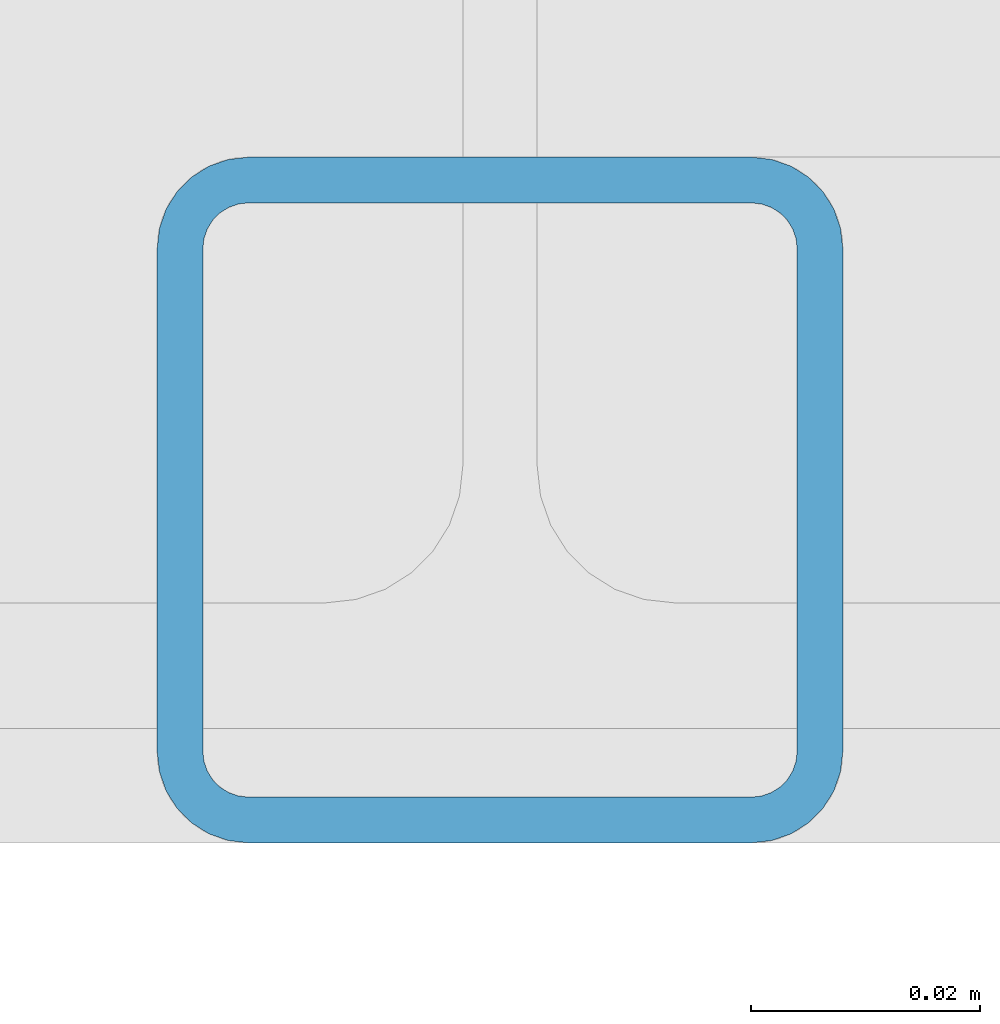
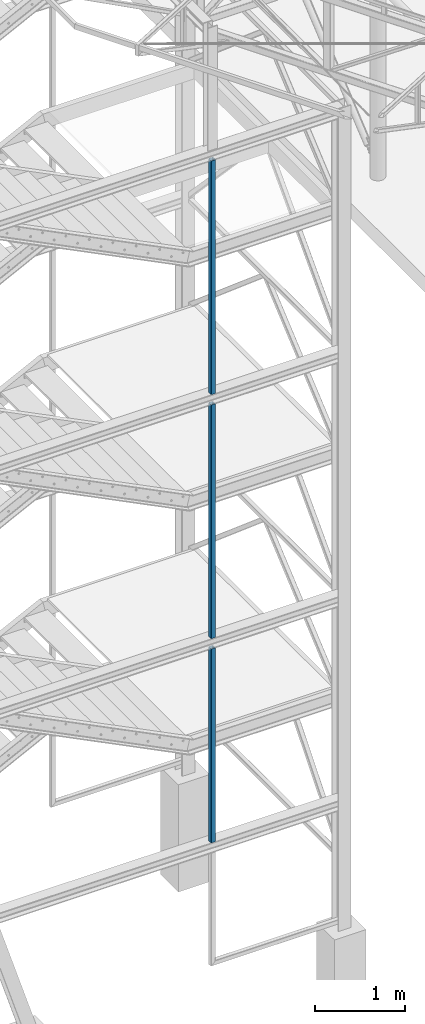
# One storey, part 6 of 132: 3 beams, 3 elements without a shape of their own.
"""IFC2X3 building model written with IfcOpenShell, lengths in millimetres."""

from ifc_helpers import new_model, si_unit, frame, origin_with_axes, origin_2d_with_axis, place, context, subcontext, project, spatial, hollow_rectangle, extrude, material, type_object, element, aggregate, save


model = new_model("IFC2X3")

# Units and contexts
model_context = context("Model", 3, precision=1e-05, world=origin_with_axes())
body_context = subcontext(model_context, "Body", "Model", "MODEL_VIEW")
ifc_project = project(units=[si_unit("LENGTHUNIT", "METRE", prefix="MILLI"), si_unit("AREAUNIT", "SQUARE_METRE"), si_unit("VOLUMEUNIT", "CUBIC_METRE"), si_unit("MASSUNIT", "GRAM", prefix="KILO"), si_unit("TIMEUNIT", "SECOND"), si_unit("PLANEANGLEUNIT", "RADIAN"), si_unit("SOLIDANGLEUNIT", "STERADIAN"), si_unit("THERMODYNAMICTEMPERATUREUNIT", "DEGREE_CELSIUS"), si_unit("LUMINOUSINTENSITYUNIT", "LUMEN")], contexts=[model_context])

# Site, building, storey
site_placement = place(None, origin_with_axes())
site = spatial("IfcSite", under=ifc_project, at=site_placement, Name="Budowa", CompositionType="ELEMENT")
building_placement = place(site_placement, origin_with_axes())
building = spatial("IfcBuilding", under=site, at=building_placement, Name="Undefined", CompositionType="ELEMENT")
storey_placement = place(building_placement, origin_with_axes())
storey = spatial("IfcBuildingStorey", under=building, at=storey_placement, Name="Undefined", CompositionType="ELEMENT", Elevation=0.0)

# Assembly, beam
assembly_1_placement = place(storey_placement, origin_with_axes())
assembly_1 = element("IfcElementAssembly", 1, at=assembly_1_placement, inside=storey, Name="Steel Assembly", AssemblyPlace="NOTDEFINED", PredefinedType="RIGID_FRAME")
ifc_material = material(Name="STEEL/S235")
beam_type = type_object("IfcBeamType", Name="SHS60*4", PredefinedType="NOTDEFINED")
beam_1_placement = place(assembly_1_placement, frame((-620.00000008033, 7630.00000004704, 5400.0), z_axis=(-1.0, 0.0, 0.0), x_axis=(0.0, 0.0, -1.0)))
beam_1 = element("IfcBeam", 2, at=beam_1_placement, type_object=beam_type, material=ifc_material, Name="BEAM", ObjectType="SHS60*4", context=body_context, shape_type="SweptSolid", body=[
    extrude(hollow_rectangle(XDim=60.0, YDim=60.0, WallThickness=4.0, InnerFilletRadius=4.0, OuterFilletRadius=8.0, at=origin_2d_with_axis()), frame((2620.0, 0.0, 0.0), z_axis=(-1.0, 0.0, 0.0), x_axis=(0.0, -1.0, 0.0)), (0.0, 0.0, 1.0), 2620.0),
])
aggregate(assembly_1, [beam_1])

assembly_2_placement = place(storey_placement, origin_with_axes())
assembly_2 = element("IfcElementAssembly", 3, at=assembly_2_placement, inside=storey, Name="Steel Assembly", AssemblyPlace="NOTDEFINED", PredefinedType="RIGID_FRAME")
beam_2_placement = place(assembly_2_placement, frame((-620.00000008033, 7630.00000004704, 12000.0), z_axis=(-1.0, 0.0, 0.0), x_axis=(0.0, 0.0, -1.0)))
beam_2 = element("IfcBeam", 4, at=beam_2_placement, type_object=beam_type, material=ifc_material, Name="BEAM", ObjectType="SHS60*4", context=body_context, shape_type="SweptSolid", body=[
    extrude(hollow_rectangle(XDim=60.0, YDim=60.0, WallThickness=4.0, InnerFilletRadius=4.0, OuterFilletRadius=8.0, at=origin_2d_with_axis()), frame((3160.0, 0.0, 0.0), z_axis=(-1.0, 0.0, 0.0), x_axis=(0.0, -1.0, 0.0)), (0.0, 0.0, 1.0), 3160.0),
])
aggregate(assembly_2, [beam_2])

assembly_3_placement = place(storey_placement, origin_with_axes())
assembly_3 = element("IfcElementAssembly", 5, at=assembly_3_placement, inside=storey, Name="Steel Assembly", AssemblyPlace="NOTDEFINED", PredefinedType="RIGID_FRAME")
beam_3_placement = place(assembly_3_placement, frame((-620.00000008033, 7630.00000004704, 8700.0), z_axis=(-1.0, 0.0, 0.0), x_axis=(0.0, 0.0, -1.0)))
beam_3 = element("IfcBeam", 6, at=beam_3_placement, type_object=beam_type, material=ifc_material, Name="BEAM", ObjectType="SHS60*4", context=body_context, shape_type="SweptSolid", body=[
    extrude(hollow_rectangle(XDim=60.0, YDim=60.0, WallThickness=4.0, InnerFilletRadius=4.0, OuterFilletRadius=8.0, at=origin_2d_with_axis()), frame((3160.0, 0.0, 0.0), z_axis=(-1.0, 0.0, 0.0), x_axis=(0.0, -1.0, 0.0)), (0.0, 0.0, 1.0), 3160.0),
])
aggregate(assembly_3, [beam_3])

save(model, "model.ifc")
